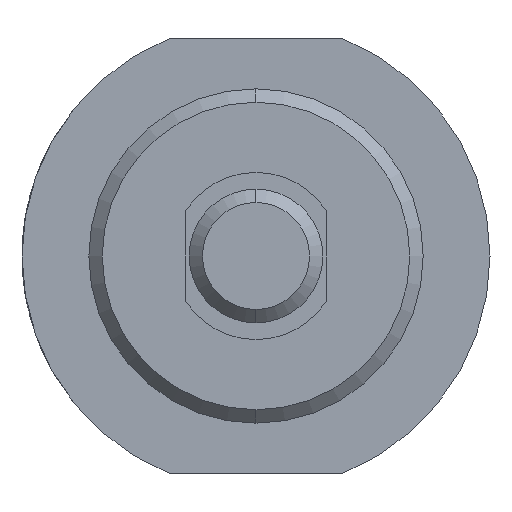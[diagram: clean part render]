
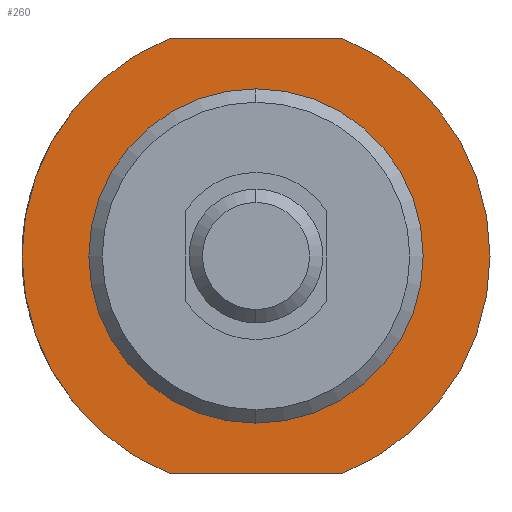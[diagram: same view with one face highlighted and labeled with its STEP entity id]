
A CAD part, left-side view. The second image highlights one B-rep face of the part: STEP entity #260.
In plain terms, the highlighted planar face has unit normal (-1, 0, 0).
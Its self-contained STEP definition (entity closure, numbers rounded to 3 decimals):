
#25 = DIRECTION ( 'NONE',  ( 0., 0., 1. ) ) ;
#77 = DIRECTION ( 'NONE',  ( -1., 0., 0. ) ) ;
#82 = ORIENTED_EDGE ( 'NONE', *, *, #720, .F. ) ;
#109 = LINE ( 'NONE', #1008, #791 ) ;
#147 = CARTESIAN_POINT ( 'NONE',  ( 28., 5., 0. ) ) ;
#166 = DIRECTION ( 'NONE',  ( 0., 0., -1. ) ) ;
#172 = CIRCLE ( 'NONE', #807, 7. ) ;
#193 = FACE_BOUND ( 'NONE', #499, .T. ) ;
#210 = CIRCLE ( 'NONE', #1442, 5. ) ;
#260 = ADVANCED_FACE ( 'NONE', ( #193, #1542 ), #1259, .F. ) ;
#273 = DIRECTION ( 'NONE',  ( 0., 0., 1. ) ) ;
#282 = CARTESIAN_POINT ( 'NONE',  ( 28., 2.598, -6.5 ) ) ;
#298 = EDGE_LOOP ( 'NONE', ( #546, #82, #1029, #781 ) ) ;
#335 = DIRECTION ( 'NONE',  ( -1., 0., 0. ) ) ;
#340 = VERTEX_POINT ( 'NONE', #872 ) ;
#354 = CARTESIAN_POINT ( 'NONE',  ( 28., 0., 0. ) ) ;
#365 = EDGE_CURVE ( 'NONE', #340, #509, #921, .T. ) ;
#368 = DIRECTION ( 'NONE',  ( 0., 0., 1. ) ) ;
#405 = VERTEX_POINT ( 'NONE', #1244 ) ;
#416 = DIRECTION ( 'NONE',  ( 0., 1., 0. ) ) ;
#424 = DIRECTION ( 'NONE',  ( 0., -1., 0. ) ) ;
#465 = DIRECTION ( 'NONE',  ( 1., 0., 0. ) ) ;
#487 = EDGE_CURVE ( 'NONE', #405, #557, #210, .T. ) ;
#499 = EDGE_LOOP ( 'NONE', ( #1146, #965 ) ) ;
#509 = VERTEX_POINT ( 'NONE', #922 ) ;
#512 = CIRCLE ( 'NONE', #1509, 5. ) ;
#546 = ORIENTED_EDGE ( 'NONE', *, *, #1340, .T. ) ;
#556 = VERTEX_POINT ( 'NONE', #1479 ) ;
#557 = VERTEX_POINT ( 'NONE', #1352 ) ;
#589 = AXIS2_PLACEMENT_3D ( 'NONE', #147, #465, #166 ) ;
#668 = EDGE_CURVE ( 'NONE', #556, #509, #172, .T. ) ;
#702 = VECTOR ( 'NONE', #416, 1000. ) ;
#720 = EDGE_CURVE ( 'NONE', #556, #1564, #109, .T. ) ;
#745 = AXIS2_PLACEMENT_3D ( 'NONE', #354, #335, #914 ) ;
#781 = ORIENTED_EDGE ( 'NONE', *, *, #365, .F. ) ;
#791 = VECTOR ( 'NONE', #424, 1000. ) ;
#807 = AXIS2_PLACEMENT_3D ( 'NONE', #1481, #879, #368 ) ;
#872 = CARTESIAN_POINT ( 'NONE',  ( 28., -2.598, -6.5 ) ) ;
#879 = DIRECTION ( 'NONE',  ( -1., 0., 0. ) ) ;
#883 = CARTESIAN_POINT ( 'NONE',  ( 28., 0., 0. ) ) ;
#914 = DIRECTION ( 'NONE',  ( 0., 0., 1. ) ) ;
#921 = LINE ( 'NONE', #282, #702 ) ;
#922 = CARTESIAN_POINT ( 'NONE',  ( 28., 2.598, -6.5 ) ) ;
#965 = ORIENTED_EDGE ( 'NONE', *, *, #487, .F. ) ;
#979 = CARTESIAN_POINT ( 'NONE',  ( 28., -2.598, 6.5 ) ) ;
#983 = DIRECTION ( 'NONE',  ( -1., 0., 0. ) ) ;
#1008 = CARTESIAN_POINT ( 'NONE',  ( 28., 2.598, 6.5 ) ) ;
#1029 = ORIENTED_EDGE ( 'NONE', *, *, #668, .T. ) ;
#1146 = ORIENTED_EDGE ( 'NONE', *, *, #1159, .F. ) ;
#1159 = EDGE_CURVE ( 'NONE', #557, #405, #512, .T. ) ;
#1172 = CARTESIAN_POINT ( 'NONE',  ( 28., 0., 0. ) ) ;
#1244 = CARTESIAN_POINT ( 'NONE',  ( 28., 0., -5. ) ) ;
#1259 = PLANE ( 'NONE',  #589 ) ;
#1330 = CIRCLE ( 'NONE', #745, 7. ) ;
#1340 = EDGE_CURVE ( 'NONE', #340, #1564, #1330, .T. ) ;
#1352 = CARTESIAN_POINT ( 'NONE',  ( 28., 0., 5. ) ) ;
#1442 = AXIS2_PLACEMENT_3D ( 'NONE', #1172, #77, #25 ) ;
#1479 = CARTESIAN_POINT ( 'NONE',  ( 28., 2.598, 6.5 ) ) ;
#1481 = CARTESIAN_POINT ( 'NONE',  ( 28., 0., 0. ) ) ;
#1509 = AXIS2_PLACEMENT_3D ( 'NONE', #883, #983, #273 ) ;
#1542 = FACE_OUTER_BOUND ( 'NONE', #298, .T. ) ;
#1564 = VERTEX_POINT ( 'NONE', #979 ) ;
